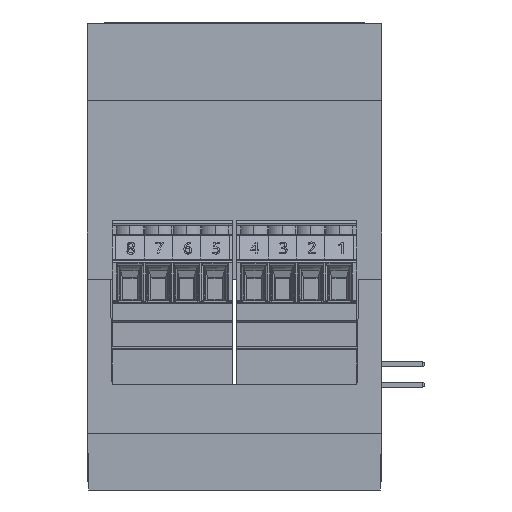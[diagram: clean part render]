
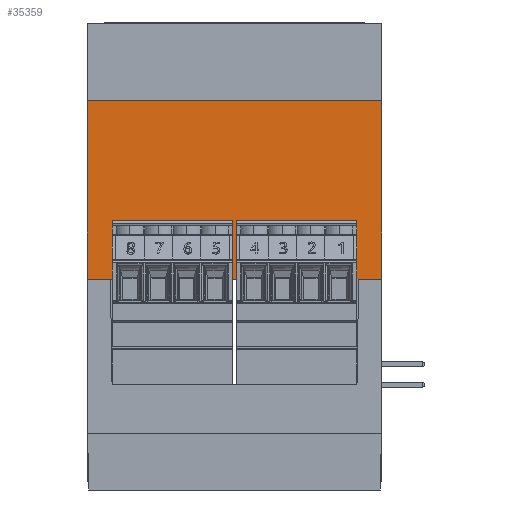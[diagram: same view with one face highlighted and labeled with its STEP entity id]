
A CAD part, left-side view. The second image highlights one B-rep face of the part: STEP entity #35359.
In plain terms, the highlighted planar face has unit normal (-1, 0, 0.008).
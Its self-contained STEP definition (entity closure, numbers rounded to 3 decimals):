
#1705 = EDGE_CURVE ( 'NONE', #99405, #61574, #12402, .T. ) ;
#3606 = DIRECTION ( 'NONE',  ( 0., 1., 0. ) ) ;
#5071 = ORIENTED_EDGE ( 'NONE', *, *, #120376, .T. ) ;
#7572 = EDGE_CURVE ( 'NONE', #17800, #99405, #31716, .T. ) ;
#10733 = CARTESIAN_POINT ( 'NONE',  ( -33.265, -20.952, 21.25 ) ) ;
#12402 = LINE ( 'NONE', #131832, #116561 ) ;
#12891 = LINE ( 'NONE', #25964, #44176 ) ;
#13013 = EDGE_CURVE ( 'NONE', #14962, #77452, #139898, .T. ) ;
#14057 = ORIENTED_EDGE ( 'NONE', *, *, #7572, .T. ) ;
#14962 = VERTEX_POINT ( 'NONE', #51268 ) ;
#16288 = DIRECTION ( 'NONE',  ( -0.008, 0., -1. ) ) ;
#17800 = VERTEX_POINT ( 'NONE', #64584 ) ;
#20300 = ORIENTED_EDGE ( 'NONE', *, *, #13013, .T. ) ;
#20470 = ORIENTED_EDGE ( 'NONE', *, *, #1705, .T. ) ;
#21895 = ORIENTED_EDGE ( 'NONE', *, *, #122010, .F. ) ;
#22604 = FACE_OUTER_BOUND ( 'NONE', #88872, .T. ) ;
#25964 = CARTESIAN_POINT ( 'NONE',  ( -33.265, -4.302, 21.25 ) ) ;
#26946 = AXIS2_PLACEMENT_3D ( 'NONE', #112114, #114318, #3606 ) ;
#29232 = CARTESIAN_POINT ( 'NONE',  ( -33.265, -4.302, 21.25 ) ) ;
#30666 = CARTESIAN_POINT ( 'NONE',  ( -33.085, 13.848, 43.25 ) ) ;
#31716 = LINE ( 'NONE', #139693, #76337 ) ;
#34232 = PLANE ( 'NONE',  #26946 ) ;
#35250 = DIRECTION ( 'NONE',  ( 0.008, 0., 1. ) ) ;
#35359 = ADVANCED_FACE ( 'NONE', ( #22604 ), #34232, .T. ) ;
#44176 = VECTOR ( 'NONE', #103138, 1000. ) ;
#46737 = CARTESIAN_POINT ( 'NONE',  ( -33.265, -22.452, 21.25 ) ) ;
#47353 = ORIENTED_EDGE ( 'NONE', *, *, #95434, .T. ) ;
#49294 = CARTESIAN_POINT ( 'NONE',  ( -33.085, -4.302, 43.25 ) ) ;
#50342 = DIRECTION ( 'NONE',  ( 0., -1., 0. ) ) ;
#51268 = CARTESIAN_POINT ( 'NONE',  ( -33.265, -18.752, 21.25 ) ) ;
#57452 = EDGE_CURVE ( 'NONE', #80371, #99470, #116031, .T. ) ;
#58488 = CARTESIAN_POINT ( 'NONE',  ( -33.265, 13.848, 21.25 ) ) ;
#58657 = VECTOR ( 'NONE', #35250, 1000. ) ;
#61383 = ORIENTED_EDGE ( 'NONE', *, *, #57452, .F. ) ;
#61569 = CARTESIAN_POINT ( 'NONE',  ( -33.265, -4.302, 21.25 ) ) ;
#61574 = VERTEX_POINT ( 'NONE', #102957 ) ;
#64584 = CARTESIAN_POINT ( 'NONE',  ( -33.265, 13.848, 21.25 ) ) ;
#71941 = VECTOR ( 'NONE', #50342, 1000. ) ;
#73662 = VECTOR ( 'NONE', #94380, 1000. ) ;
#76337 = VECTOR ( 'NONE', #121281, 1000. ) ;
#77452 = VERTEX_POINT ( 'NONE', #10733 ) ;
#80371 = VERTEX_POINT ( 'NONE', #111808 ) ;
#80372 = LINE ( 'NONE', #58488, #58657 ) ;
#82141 = LINE ( 'NONE', #49294, #85913 ) ;
#84015 = VERTEX_POINT ( 'NONE', #30666 ) ;
#85913 = VECTOR ( 'NONE', #116310, 1000. ) ;
#88872 = EDGE_LOOP ( 'NONE', ( #20470, #88898, #20300, #47353, #61383, #5071, #21895, #14057 ) ) ;
#88898 = ORIENTED_EDGE ( 'NONE', *, *, #126664, .T. ) ;
#94380 = DIRECTION ( 'NONE',  ( 0., -1., 0. ) ) ;
#95434 = EDGE_CURVE ( 'NONE', #77452, #99470, #12891, .T. ) ;
#99405 = VERTEX_POINT ( 'NONE', #110168 ) ;
#99470 = VERTEX_POINT ( 'NONE', #46737 ) ;
#102957 = CARTESIAN_POINT ( 'NONE',  ( -33.265, 10.148, 21.25 ) ) ;
#103138 = DIRECTION ( 'NONE',  ( 0., -1., 0. ) ) ;
#106376 = VECTOR ( 'NONE', #16288, 1000. ) ;
#110168 = CARTESIAN_POINT ( 'NONE',  ( -33.265, 12.348, 21.25 ) ) ;
#111808 = CARTESIAN_POINT ( 'NONE',  ( -33.085, -22.452, 43.25 ) ) ;
#112114 = CARTESIAN_POINT ( 'NONE',  ( -33.265, -4.302, 21.25 ) ) ;
#114318 = DIRECTION ( 'NONE',  ( -1., 0., 0.008 ) ) ;
#116031 = LINE ( 'NONE', #117453, #106376 ) ;
#116310 = DIRECTION ( 'NONE',  ( 0., 1., 0. ) ) ;
#116561 = VECTOR ( 'NONE', #133957, 1000. ) ;
#117453 = CARTESIAN_POINT ( 'NONE',  ( -33.265, -22.452, 21.25 ) ) ;
#119075 = LINE ( 'NONE', #61569, #73662 ) ;
#120376 = EDGE_CURVE ( 'NONE', #80371, #84015, #82141, .T. ) ;
#121281 = DIRECTION ( 'NONE',  ( 0., -1., 0. ) ) ;
#122010 = EDGE_CURVE ( 'NONE', #17800, #84015, #80372, .T. ) ;
#126664 = EDGE_CURVE ( 'NONE', #61574, #14962, #119075, .T. ) ;
#131832 = CARTESIAN_POINT ( 'NONE',  ( -33.265, -4.302, 21.25 ) ) ;
#133957 = DIRECTION ( 'NONE',  ( 0., -1., 0. ) ) ;
#139693 = CARTESIAN_POINT ( 'NONE',  ( -33.265, -4.302, 21.25 ) ) ;
#139898 = LINE ( 'NONE', #29232, #71941 ) ;
